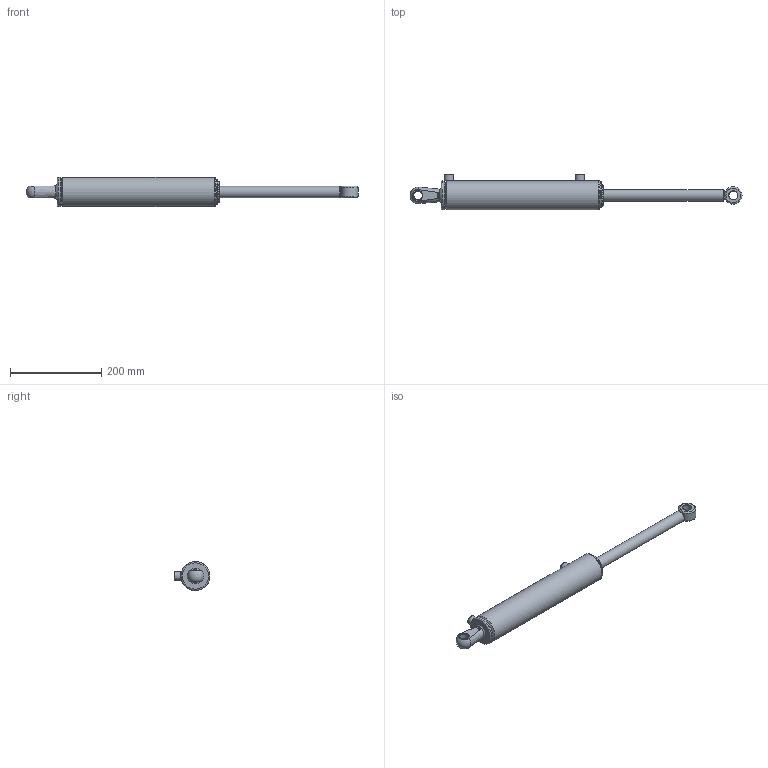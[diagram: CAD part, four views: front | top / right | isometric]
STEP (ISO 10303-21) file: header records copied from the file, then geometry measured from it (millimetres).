
FILE_DESCRIPTION(/* description */ ('Alibre Inc.'),/* implementation_level */ '2;1');
FILE_NAME(/* name */ 'export0',/* time_stamp */ '2016-08-16T09:50:38+12:00',/* author */ (''),/* organization */ (''),/* preprocessor_version */ 'ST-DEVELOPER v14',/* originating_system */ 'Alibre',/* authorisation */ '');
FILE_SCHEMA (('AUTOMOTIVE_DESIGN'));
Length unit declared in the file: centimetre
Bounding box: 726.94 x 78.5 x 63.5 mm (x, y, z)
Volume: 758580.1 mm3; surface area: 212666.9 mm2
Topology: 11 solids, 11 shells, 138 faces, 278 edges, 173 vertices
Faces by surface type: cylinder 51, plane 44, cone 27, torus 13, bspline 2, sphere 1
Full cylindrical faces by diameter (mm): 2.5 x2, 5.588 x1, 6.35 x2, 8.3 x2, 11.9 x2, 17.323 x2, 19.05 x2, 19.101 x1, 20 x2, 25.4 x1, 25.45 x2, 31.77 x1, 31.8 x1, 32.5 x1, 34.93 x2, 38.1 x1, 41.3 x2, 44.91 x1, 45.5 x1, 46.23 x2, 48 x2, 48.3 x1, 49.48 x2, 50.07 x1, 50.69 x2, 50.8 x2, 54 x1, 63.5 x3
Entity records: 3664 total; most frequent: CARTESIAN_POINT 968, DIRECTION 530, ORIENTED_EDGE 330, AXIS2_PLACEMENT_3D 283, FACE_BOUND 258, EDGE_LOOP 256, EDGE_CURVE 165, VERTEX_POINT 153
